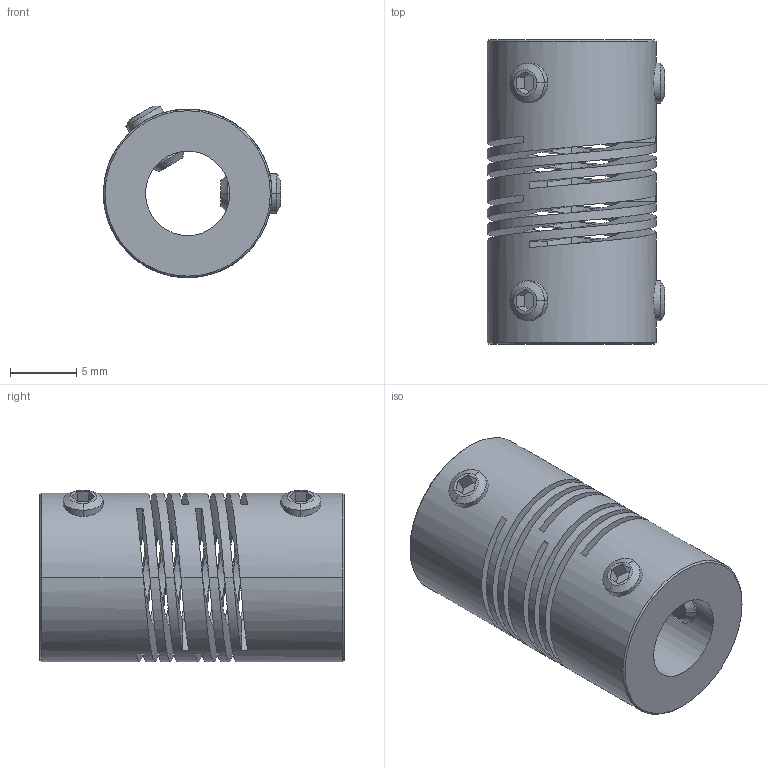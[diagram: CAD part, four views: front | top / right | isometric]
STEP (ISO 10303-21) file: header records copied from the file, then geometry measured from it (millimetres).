
FILE_DESCRIPTION((''),'2;1');
FILE_NAME('726_13_ASM','2006-12-05T',('Gary Melling'),(''),'PRO/ENGINEER BY PARAMETRIC TECHNOLOGY CORPORATION, 2006240','PRO/ENGINEER BY PARAMETRIC TECHNOLOGY CORPORATION, 2006240','');
FILE_SCHEMA(('CONFIG_CONTROL_DESIGN'));
Length unit declared in the file: millimetre
Products named in the file (3): 726_13; GS_3; 726_13_ASM
Assembly tree (5 placements, depth 2):
  726_13_ASM
    726_13
    GS_3  x4
Bounding box: 13.35 x 22.9 x 12.91 mm (x, y, z)
Volume: 1839.6 mm3; surface area: 2736.1 mm2
Topology: 5 solids, 5 shells, 120 faces, 328 edges, 208 vertices
Faces by surface type: plane 52, cylinder 36, cone 20, bspline 12
Entity records: 4674 total; most frequent: CARTESIAN_POINT 2651, ORIENTED_EDGE 464, DIRECTION 318, EDGE_CURVE 232, VERTEX_POINT 148, VECTOR 120, LINE 120, AXIS2_PLACEMENT_3D 99
